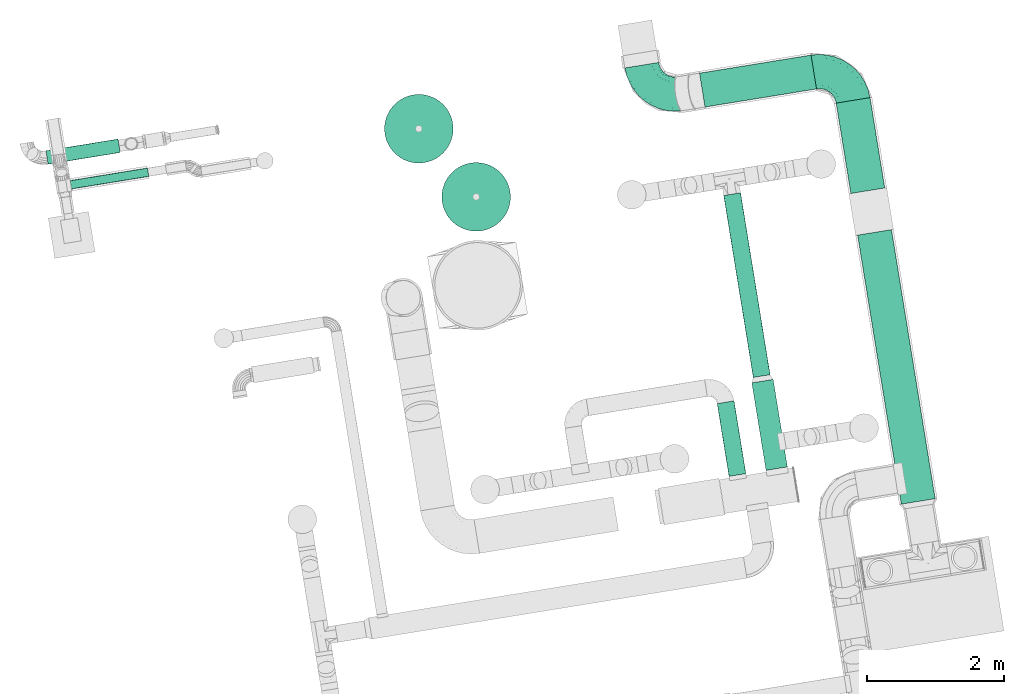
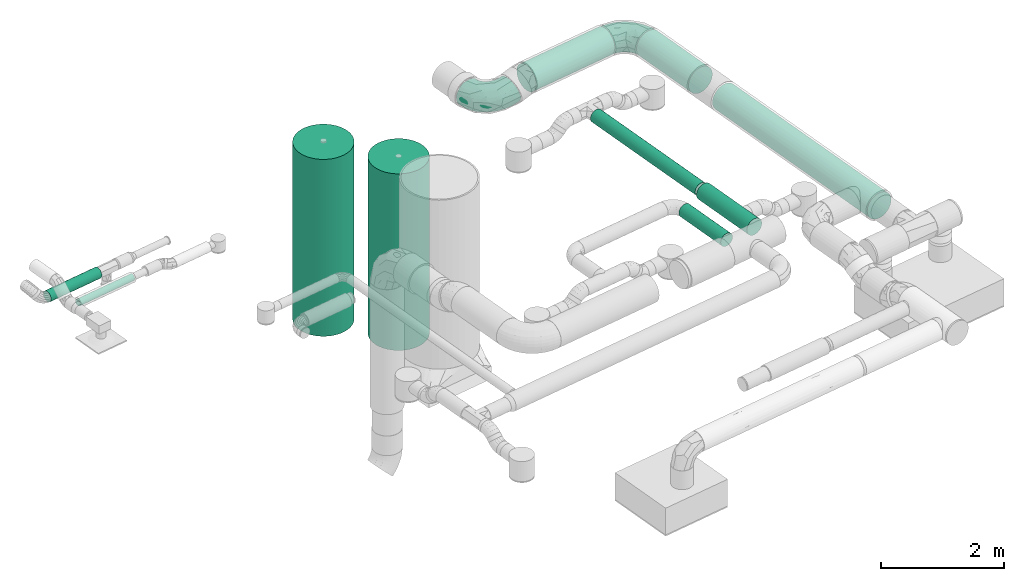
# One storey, part 13 of 39: 10 flow segments, 2 flow fittings.
"""IFC2X3 building model written with IfcOpenShell, lengths in millimetres."""

import ifcopenshell
import ifcopenshell.guid

model = None  # the IFC model being written
_history = None  # IfcOwnerHistory: only IFC2X3 demands one
_inside = {}  # id of a spatial element -> (the spatial element, [elements in it])
_under = {}  # id of a project, library or spatial element -> (it, [spatial elements below it])
_declared = {}  # id of a project -> (the project, [libraries it declares])
_typed = {}  # id of a type object -> (the type object, [elements of that type])
_made_of = {}  # id of a material, layer set ... -> (it, [elements and type objects made of it])


def new_model(schema):
    """Start an empty IFC model of exactly this schema.

    Asked for "IFC4X3", IfcOpenShell would pick the latest addendum, in which some entities
    have other attributes; the version numbers below select the first issue.
    IFC2X3 requires an IfcOwnerHistory on every rooted entity: one is made here for all.
    """
    global model, _history
    if schema == "IFC4X3":
        model = ifcopenshell.file(schema_version=(4, 3, 0, 0))
    else:
        model = ifcopenshell.file(schema=schema)
    _inside.clear()
    _under.clear()
    _declared.clear()
    _typed.clear()
    _made_of.clear()
    _history = None
    if model.schema == "IFC2X3":
        org = make("IfcOrganization", Name="unknown")
        user = make(
            "IfcPersonAndOrganization",
            ThePerson=make("IfcPerson", FamilyName="unknown"),
            TheOrganization=org,
        )
        app = make(
            "IfcApplication",
            ApplicationDeveloper=org,
            Version="unknown",
            ApplicationFullName="unknown",
            ApplicationIdentifier="unknown",
        )
        _history = make(
            "IfcOwnerHistory",
            OwningUser=user,
            OwningApplication=app,
            ChangeAction="ADDED",
            CreationDate=0,
        )
    return model


def make(cls, **values):
    """One entity of the class cls with the attributes given. An attribute that is None is left unset."""
    return model.create_entity(
        cls, **{name: value for name, value in values.items() if value is not None}
    )


def entity(cls, *values):
    """Any entity or typed value of the class cls, its attributes in the order of the schema. None: left unset."""
    e = model.create_entity(cls)
    for i, value in enumerate(values):
        if value is not None:
            e[i] = value
    return e


def rooted(cls, **values):
    """An entity with a GlobalId (a new one), such as an element, a storey or a relation."""
    return make(cls, GlobalId=ifcopenshell.guid.new(), OwnerHistory=_history, **values)


def si_unit(unit_type, name, prefix=None):
    """IfcSIUnit, for example si_unit("LENGTHUNIT", "METRE", prefix="MILLI")."""
    return make("IfcSIUnit", UnitType=unit_type, Prefix=prefix, Name=name)


def converted_unit(unit_type, name, factor, base, dimensions=None, offset=None):
    """IfcConversionBasedUnit, such as the inch: factor (a typed value) times the base unit."""
    return make(
        "IfcConversionBasedUnit"
        if offset is None
        else "IfcConversionBasedUnitWithOffset",
        ConversionOffset=offset,
        Dimensions=None
        if dimensions is None
        else entity("IfcDimensionalExponents", *dimensions),
        UnitType=unit_type,
        Name=name,
        ConversionFactor=make(
            "IfcMeasureWithUnit", ValueComponent=factor, UnitComponent=base
        ),
    )


def derived_unit(unit_type, elements):
    """IfcDerivedUnit: a product of units, each with its exponent."""
    return make(
        "IfcDerivedUnit",
        Elements=[
            make("IfcDerivedUnitElement", Unit=unit, Exponent=power)
            for unit, power in elements
        ],
        UnitType=unit_type,
    )


def assignment(units):
    """IfcUnitAssignment: the units of a project."""
    return None if units is None else make("IfcUnitAssignment", Units=units)


def point(xyz):
    """IfcCartesianPoint."""
    return None if xyz is None else make("IfcCartesianPoint", Coordinates=xyz)


def direction(xyz):
    """IfcDirection."""
    return None if xyz is None else make("IfcDirection", DirectionRatios=xyz)


def frame(location, z_axis=None, x_axis=None):
    """IfcAxis2Placement3D, a coordinate frame: its origin and axes. An axis left out is left unset."""
    return make(
        "IfcAxis2Placement3D",
        Location=point(location),
        Axis=direction(z_axis),
        RefDirection=direction(x_axis),
    )


def frame_2d(location, x_axis=None):
    """IfcAxis2Placement2D, a coordinate frame in the plane: its origin and x axis."""
    return make(
        "IfcAxis2Placement2D", Location=point(location), RefDirection=direction(x_axis)
    )


def origin():
    """The frame at (0, 0, 0) with its axes left unset."""
    return frame((0.0, 0.0, 0.0))


def origin_with_axes():
    """The frame at (0, 0, 0) with the z axis (0, 0, 1) and the x axis (1, 0, 0) written out."""
    return frame((0.0, 0.0, 0.0), z_axis=(0.0, 0.0, 1.0), x_axis=(1.0, 0.0, 0.0))


def origin_2d_with_axis():
    """The frame at (0, 0) in the plane with the x axis (1, 0) written out."""
    return frame_2d((0.0, 0.0), x_axis=(1.0, 0.0))


def place(relative_to, where):
    """IfcLocalPlacement: puts the frame where relative to a parent placement (None: the world)."""
    return make(
        "IfcLocalPlacement", PlacementRelTo=relative_to, RelativePlacement=where
    )


def context(
    kind, dimensions, precision=None, world=None, true_north=None, identifier=None
):
    """IfcGeometricRepresentationContext, for example the 3D "Model" context."""
    return make(
        "IfcGeometricRepresentationContext",
        ContextIdentifier=identifier,
        ContextType=kind,
        CoordinateSpaceDimension=dimensions,
        Precision=precision,
        WorldCoordinateSystem=world,
        TrueNorth=true_north,
    )


def subcontext(parent, identifier, kind, view, scale=None):
    """IfcGeometricRepresentationSubContext, for example "Body" below "Model"."""
    return make(
        "IfcGeometricRepresentationSubContext",
        ContextIdentifier=identifier,
        ContextType=kind,
        ParentContext=parent,
        TargetScale=scale,
        TargetView=view,
    )


def project(units=None, contexts=None):
    """IfcProject with its units and contexts."""
    return rooted(
        "IfcProject",
        Name="project",
        RepresentationContexts=contexts,
        UnitsInContext=assignment(units),
    )


def spatial(cls, under=None, at=None, **own):
    """A site, building, storey or space (cls), placed at a placement, below another one or the project."""
    s = rooted(cls, ObjectPlacement=at, **own)
    if under is not None:
        _under.setdefault(under.id(), (under, []))[1].append(s)
    return s


def profile(cls, at=None, kind="AREA", **sizes):
    """A parametric profile (cls). Its sizes go by their IFC names, for example OverallWidth=200.0."""
    return make(cls, ProfileType=kind, Position=at, **sizes)


def circle(**sizes):
    """IfcCircleProfileDef."""
    return profile("IfcCircleProfileDef", **sizes)


def extrude(swept, where, along, depth):
    """IfcExtrudedAreaSolid: the profile swept, set in the frame where, extruded along a direction by depth."""
    return make(
        "IfcExtrudedAreaSolid",
        SweptArea=swept,
        Position=where,
        ExtrudedDirection=direction(along),
        Depth=depth,
    )


def faces_of(points, faces, orient=None, outer=None):
    """IfcFace entities. A face is a list of loops; a loop is a list of indices into points, from 0.

    orient and outer hold one flag for each loop. By default every Orientation is true, the
    first loop of a face is its IfcFaceOuterBound and the others are IfcFaceBound.
    """
    made = []
    for i, loops in enumerate(faces):
        bounds = []
        for j, loop in enumerate(loops):
            is_outer = j == 0 if outer is None else outer[i][j]
            bounds.append(
                make(
                    "IfcFaceOuterBound" if is_outer else "IfcFaceBound",
                    Bound=make("IfcPolyLoop", Polygon=[points[k] for k in loop]),
                    Orientation=True if orient is None else orient[i][j],
                )
            )
        made.append(make("IfcFace", Bounds=bounds))
    return made


def faceted_brep(points, faces, orient=None, outer=None, voids=None):
    """IfcFacetedBrep: a solid bounded by flat faces; with voids (closed shells), ...WithVoids."""
    shared = [point(p) for p in points]
    hull = make("IfcClosedShell", CfsFaces=faces_of(shared, faces, orient, outer))
    if voids is None:
        return make("IfcFacetedBrep", Outer=hull)
    return make(
        "IfcFacetedBrepWithVoids",
        Outer=hull,
        Voids=[
            make(cls, CfsFaces=faces_of(shared, fs, o, b)) for cls, fs, o, b in voids
        ],
    )


def shape(context_of_items, identifier, shape_type, items):
    """IfcShapeRepresentation: the items that make up one representation, for example the "Body"."""
    return make(
        "IfcShapeRepresentation",
        ContextOfItems=context_of_items,
        RepresentationIdentifier=identifier,
        RepresentationType=shape_type,
        Items=items,
    )


def source(mapping_origin, context_of_items, identifier, shape_type, items):
    """IfcRepresentationMap: a shape defined once, which mapped items show again and again."""
    return make(
        "IfcRepresentationMap",
        MappingOrigin=mapping_origin,
        MappedRepresentation=shape(context_of_items, identifier, shape_type, items),
    )


def transform(
    local_origin,
    x_axis=None,
    y_axis=None,
    z_axis=None,
    scale=None,
    scale2=None,
    scale3=None,
    uniform=True,
):
    """IfcCartesianTransformationOperator3D, or its non-uniform kind. x_axis, y_axis, z_axis: its Axis1, 2, 3."""
    if uniform:
        return make(
            "IfcCartesianTransformationOperator3D",
            Axis1=direction(x_axis),
            Axis2=direction(y_axis),
            LocalOrigin=point(local_origin),
            Scale=scale,
            Axis3=direction(z_axis),
        )
    return make(
        "IfcCartesianTransformationOperator3DnonUniform",
        Axis1=direction(x_axis),
        Axis2=direction(y_axis),
        LocalOrigin=point(local_origin),
        Scale=scale,
        Axis3=direction(z_axis),
        Scale2=scale2,
        Scale3=scale3,
    )


def mapped(mapping_source, mapping_target):
    """IfcMappedItem: shows the shape of a source again, moved by a transform."""
    return make(
        "IfcMappedItem", MappingSource=mapping_source, MappingTarget=mapping_target
    )


def material(Name=None, Category=None):
    """IfcMaterial."""
    return make("IfcMaterial", Name=Name, Category=Category)


def made_of(thing, what):
    """Note that an element or type object is made of a material, layer set ...; save() writes the relation."""
    if what is not None:
        _made_of.setdefault(what.id(), (what, []))[1].append(thing)
    return thing


def type_object(cls, material=None, **own):
    """A type object (cls), such as IfcWallType, which elements share."""
    return made_of(rooted(cls, **own), material)


def element(
    cls,
    number,
    at=None,
    inside=None,
    cuts=None,
    type_object=None,
    material=None,
    context=None,
    identifier="Body",
    shape_type=None,
    held_by="IfcProductDefinitionShape",
    body=None,
    shapes=None,
    **own,
):
    """One element of the class cls, such as IfcWall. Its Tag is "e" and its number.

    at: its placement. inside: the storey or other place that contains it. cuts: it is an
    opening in that element (IfcRelVoidsElement). A single representation is given by context,
    identifier, shape_type and body (its items); several are given by shapes. held_by: the class
    of the entity that holds the representations. save() writes the other relations.
    """
    e = rooted(cls, Tag="e%d" % number, ObjectPlacement=at, **own)
    if body is not None:
        shapes = [shape(context, identifier, shape_type, body)]
    if shapes is not None:
        e.Representation = make(held_by, Representations=shapes)
    if inside is not None:
        _inside.setdefault(inside.id(), (inside, []))[1].append(e)
    if cuts is not None:
        rooted(
            "IfcRelVoidsElement", RelatingBuildingElement=cuts, RelatedOpeningElement=e
        )
    if type_object is not None:
        _typed.setdefault(type_object.id(), (type_object, []))[1].append(e)
    return made_of(e, material)


def aggregate(whole, parts):
    """IfcRelAggregates: a whole, such as a stair, and the parts it consists of."""
    return rooted("IfcRelAggregates", RelatingObject=whole, RelatedObjects=parts)


def save(model, path):
    """Write the relations noted so far, then the file.

    IfcRelAggregates (storeys below a building ...), IfcRelContainedInSpatialStructure (elements
    in a storey), IfcRelDefinesByType, IfcRelAssociatesMaterial and IfcRelDeclares: one each for
    every whole, place, type object, material and project.
    """
    for whole, parts in _under.values():
        aggregate(whole, parts)
    for where, things in _inside.values():
        rooted(
            "IfcRelContainedInSpatialStructure",
            RelatedElements=things,
            RelatingStructure=where,
        )
    for kind, things in _typed.values():
        rooted("IfcRelDefinesByType", RelatedObjects=things, RelatingType=kind)
    for what, things in _made_of.values():
        rooted("IfcRelAssociatesMaterial", RelatedObjects=things, RelatingMaterial=what)
    for by, libraries in _declared.values():
        rooted("IfcRelDeclares", RelatingContext=by, RelatedDefinitions=libraries)
    model.write(path)


model = new_model("IFC2X3")

# Units and contexts
model_context = context("Model", 3, precision=0.01, world=origin(), true_north=direction((6.12323399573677e-17, 1.0)))
plan_context = context("Plan", 3, precision=1e-05, world=origin_with_axes())
body_context = subcontext(model_context, "Body", "Model", "MODEL_VIEW")
ifc_project = project(units=[converted_unit("PLANEANGLEUNIT", "DEGREE", entity("IfcPositiveLengthMeasure", 0.0174532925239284), si_unit("PLANEANGLEUNIT", "RADIAN"), dimensions=[0, 0, 0, 0, 0, 0, 0]), si_unit("AREAUNIT", "SQUARE_METRE"), si_unit("LENGTHUNIT", "METRE", prefix="MILLI"), si_unit("MASSUNIT", "GRAM", prefix="KILO"), si_unit("POWERUNIT", "WATT"), si_unit("PRESSUREUNIT", "PASCAL", prefix="KILO"), si_unit("FORCEUNIT", "NEWTON", prefix="KILO"), si_unit("ELECTRICVOLTAGEUNIT", "VOLT"), si_unit("ELECTRICCURRENTUNIT", "AMPERE"), si_unit("THERMODYNAMICTEMPERATUREUNIT", "DEGREE_CELSIUS"), si_unit("TIMEUNIT", "SECOND"), si_unit("VOLUMEUNIT", "CUBIC_METRE"), derived_unit("LINEARVELOCITYUNIT", [(si_unit("LENGTHUNIT", "METRE"), 1), (si_unit("TIMEUNIT", "SECOND"), -1)]), derived_unit("VOLUMETRICFLOWRATEUNIT", [(si_unit("VOLUMEUNIT", "CUBIC_METRE"), 1), (si_unit("TIMEUNIT", "SECOND"), -1)]), derived_unit("THERMALTRANSMITTANCEUNIT", [(si_unit("POWERUNIT", "WATT"), 1), (si_unit("THERMODYNAMICTEMPERATUREUNIT", "KELVIN"), -1), (si_unit("AREAUNIT", "SQUARE_METRE"), -1)]), derived_unit("SOUNDPRESSUREUNIT", [(si_unit("PRESSUREUNIT", "PASCAL"), 1)])], contexts=[model_context, plan_context])

# Site, building, storey
site_placement = place(None, frame((-0.00071070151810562, 0.00438415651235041, 0.0), z_axis=(0.0, 0.0, 1.0), x_axis=(-0.160236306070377, 0.987078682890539, 0.0)))
site = spatial("IfcSite", under=ifc_project, at=site_placement, Name="Default", CompositionType="ELEMENT")
building_placement = place(site_placement, origin_with_axes())
building = spatial("IfcBuilding", under=site, at=building_placement, CompositionType="ELEMENT")
storey_placement = place(building_placement, frame((0.0, 0.0, 50999.9999999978), z_axis=(0.0, 0.0, 1.0), x_axis=(1.0, 0.0, 0.0)))
storey = spatial("IfcBuildingStorey", under=building, at=storey_placement, Name="Nivå D", CompositionType="ELEMENT", Elevation=50999.9999999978)

# Flow fittings
ifc_material = material(Name="<Unnamed>")
duct_fitting_type = type_object("IfcDuctFittingType", Name="magicirc_elbow_full_radius_1:magicirc_elbow_full_radius_001", PredefinedType="NOTDEFINED", material=ifc_material)
shared_shape = source(origin(), body_context, "Body", "Brep", [
    faceted_brep([(-382.674151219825, -240.766255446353, 0.0), (-383.654685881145, -234.575403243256, 55.6302334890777), (-500.0, -243.731978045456, 55.6302334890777), (-500.0, -250.0, 0.0), (-386.547121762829, -216.313281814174, 108.470934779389), (-500.0, -225.242216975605, 108.470934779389), (-391.206420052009, -186.89563018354, 155.872450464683), (-500.0, -195.457870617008, 155.872450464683), (-404.814174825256, -100.979647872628, 225.242216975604), (-500.0, -108.470934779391, 225.242216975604), (-413.080281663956, -48.7895032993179, 243.731978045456), (-500.0, -55.6302334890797, 243.731978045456), (-421.782767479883, 6.15582970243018, 250.0), (-500.0, 0.0, 250.0), (-438.751360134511, 113.291307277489, 225.242216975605), (-500.0, 108.470934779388, 225.242216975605), (-446.166590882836, 160.109231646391, 195.457870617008), (-500.0, 155.872450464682, 195.457870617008), (-452.359114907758, 199.207289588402, 155.872450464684), (-500.0, 195.457870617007, 155.872450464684), (-459.910849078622, 246.887062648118, 55.6302334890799), (-500.0, 243.731978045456, 55.6302334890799), (-460.891383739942, 253.077914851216, 0.0), (-500.0, 250.0, 0.0), (-459.910849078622, 246.887062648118, -55.6302334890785), (-500.0, 243.731978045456, -55.6302334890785), (-457.018413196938, 228.624941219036, -108.470934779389), (-500.0, 225.242216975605, -108.470934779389), (-452.359114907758, 199.207289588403, -155.872450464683), (-500.0, 195.457870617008, -155.872450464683), (-438.751360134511, 113.29130727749, -225.242216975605), (-500.0, 108.47093477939, -225.242216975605), (-430.485253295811, 61.1011627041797, -243.731978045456), (-500.0, 55.6302334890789, -243.731978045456), (-421.782767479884, 6.15582970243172, -250.0), (-500.0, 0.0, -250.0), (-404.814174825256, -100.979647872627, -225.242216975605), (-500.0, -108.470934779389, -225.242216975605), (-397.398944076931, -147.797572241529, -195.457870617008), (-500.0, -155.872450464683, -195.457870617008), (-391.206420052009, -186.895630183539, -155.872450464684), (-500.0, -195.457870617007, -155.872450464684), (-383.654685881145, -234.575403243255, -55.6302334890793), (-500.0, -243.731978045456, -55.6302334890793), (-268.237254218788, -213.292387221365, 0.0), (-270.174179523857, -207.331144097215, 55.6302334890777), (-275.887829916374, -189.746336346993, 108.470934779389), (-285.09169910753, -161.419739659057, 155.872450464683), (-311.972140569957, -78.6902474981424, 225.242216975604), (-328.300815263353, -28.4357542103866, 243.731978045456), (-345.491502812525, 24.4717418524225, 250.0), (-379.010865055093, 127.633731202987, 225.242216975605), (-393.658738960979, 172.715251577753, 195.457870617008), (-405.89130651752, 210.363223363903, 155.872450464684), (-420.808826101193, 256.274627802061, 55.6302334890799), (-422.745751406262, 262.235870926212, 0.0), (-420.808826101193, 256.274627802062, -55.6302334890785), (-415.095175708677, 238.689820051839, -108.470934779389), (-405.89130651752, 210.363223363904, -155.872450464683), (-379.010865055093, 127.633731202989, -225.242216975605), (-362.682190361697, 77.3792379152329, -243.731978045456), (-345.491502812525, 24.4717418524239, -250.0), (-311.972140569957, -78.690247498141, -225.242216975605), (-297.324266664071, -123.771767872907, -195.457870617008), (-285.09169910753, -161.419739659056, -155.872450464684), (-270.174179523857, -207.331144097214, -55.6302334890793), (-159.507125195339, -168.254893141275, 0.0), (-162.35274761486, -162.670044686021, 55.6302334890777), (-170.746923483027, -146.195546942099, 108.470934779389), (-184.268733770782, -119.657500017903, 155.872450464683), (-223.759976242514, -42.1515726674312, 225.242216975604), (-247.749152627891, 4.92983692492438, 243.731978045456), (-273.004750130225, 54.4967379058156, 250.0), (-322.249524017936, 151.145048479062, 225.242216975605), (-343.769361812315, 193.380108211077, 195.457870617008), (-361.740766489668, 228.650975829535, 155.872450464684), (-383.656752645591, 271.663520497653, 55.6302334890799), (-386.502375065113, 277.248368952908, 0.0), (-383.656752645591, 271.663520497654, -55.6302334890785), (-375.262576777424, 255.189022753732, -108.470934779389), (-361.740766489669, 228.650975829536, -155.872450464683), (-322.249524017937, 151.145048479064, -225.242216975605), (-298.26034763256, 104.063638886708, -243.731978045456), (-273.004750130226, 54.496737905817, -250.0), (-223.759976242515, -42.1515726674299, -225.242216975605), (-202.240138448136, -84.386632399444, -195.457870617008), (-184.268733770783, -119.657500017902, -155.872450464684), (-162.352747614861, -162.67004468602, -55.6302334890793), (-59.1610607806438, -106.76274578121, 0.0), (-62.8453116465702, -101.691809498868, 55.6302334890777), (-73.7133205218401, -86.7332785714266, 108.470934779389), (-91.2201200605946, -62.637236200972, 155.872450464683), (-142.349758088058, 7.73667318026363, 225.242216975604), (-173.408743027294, 50.4856985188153, 243.731978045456), (-206.107373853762, 95.4915028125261, 250.0), (-269.864989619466, 183.246332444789, 225.242216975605), (-297.726901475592, 221.594964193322, 195.457870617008), (-320.994627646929, 253.620241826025, 155.872450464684), (-349.369436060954, 292.674815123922, 55.6302334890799), (-353.053686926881, 297.745751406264, 0.0), (-349.369436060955, 292.674815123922, -55.6302334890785), (-338.501427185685, 277.71628419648, -108.470934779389), (-320.99462764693, 253.620241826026, -155.872450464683), (-269.864989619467, 183.24633244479, -225.242216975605), (-238.80600468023, 140.497307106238, -243.731978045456), (-206.107373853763, 95.4915028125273, -250.0), (-142.349758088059, 7.73667318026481, -225.242216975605), (-114.487846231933, -30.6119585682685, -195.457870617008), (-91.2201200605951, -62.6372362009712, -155.872450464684), (-62.8453116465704, -101.691809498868, -55.6302334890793), (30.3300858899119, -30.3300858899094, 0.0), (25.8979250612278, -25.8979250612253, 55.6302334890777), (12.8236896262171, -12.8236896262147, 108.470934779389), (-8.23702365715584, 8.23702365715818, 155.872450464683), (-69.7460758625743, 69.7460758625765, 225.242216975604), (-107.110094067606, 107.110094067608, 243.731978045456), (-146.446609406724, 146.446609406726, 250.0), (-223.147142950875, 223.147142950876, 225.242216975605), (-256.665076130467, 256.665076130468, 195.457870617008), (-284.656195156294, 284.656195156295, 155.872450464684), (-318.791143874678, 318.791143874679, 55.6302334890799), (-323.223304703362, 323.223304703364, 0.0), (-318.791143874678, 318.79114387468, -55.6302334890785), (-305.716908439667, 305.716908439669, -108.470934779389), (-284.656195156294, 284.656195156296, -155.872450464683), (-223.147142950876, 223.147142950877, -225.242216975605), (-185.783124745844, 185.783124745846, -243.731978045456), (-146.446609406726, 146.446609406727, -250.0), (-69.7460758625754, 69.7460758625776, -225.242216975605), (-36.2281426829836, 36.2281426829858, -195.457870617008), (-8.23702365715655, 8.23702365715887, -155.872450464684), (25.8979250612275, -25.897925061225, -55.6302334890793), (106.762745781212, 59.1610607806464, 0.0), (101.69180949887, 62.8453116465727, 55.6302334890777), (86.7332785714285, 73.7133205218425, 108.470934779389), (62.6372362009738, 91.2201200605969, 155.872450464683), (-7.7366731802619, 142.34975808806, 225.242216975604), (-50.4856985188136, 173.408743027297, 243.731978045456), (-95.4915028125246, 206.107373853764, 250.0), (-183.246332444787, 269.864989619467, 225.242216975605), (-221.594964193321, 297.726901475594, 195.457870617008), (-253.620241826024, 320.994627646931, 155.872450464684), (-292.674815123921, 349.369436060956, 55.6302334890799), (-297.745751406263, 353.053686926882, 0.0), (-292.674815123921, 349.369436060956, -55.6302334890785), (-277.716284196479, 338.501427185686, -108.470934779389), (-253.620241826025, 320.994627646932, -155.872450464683), (-183.246332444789, 269.864989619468, -225.242216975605), (-140.497307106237, 238.806004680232, -243.731978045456), (-95.4915028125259, 206.107373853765, -250.0), (-7.73667318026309, 142.349758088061, -225.242216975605), (30.6119585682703, 114.487846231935, -195.457870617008), (62.637236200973, 91.2201200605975, -155.872450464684), (101.69180949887, 62.8453116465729, -55.6302334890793), (168.254893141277, 159.507125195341, 0.0), (162.670044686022, 162.352747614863, 55.6302334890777), (146.195546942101, 170.74692348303, 108.470934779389), (119.657500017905, 184.268733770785, 155.872450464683), (42.1515726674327, 223.759976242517, 225.242216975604), (-4.92983692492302, 247.749152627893, 243.731978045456), (-54.4967379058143, 273.004750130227, 250.0), (-151.145048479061, 322.249524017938, 225.242216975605), (-193.380108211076, 343.769361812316, 195.457870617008), (-228.650975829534, 361.74076648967, 155.872450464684), (-271.663520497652, 383.656752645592, 55.6302334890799), (-277.248368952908, 386.502375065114, 0.0), (-271.663520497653, 383.656752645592, -55.6302334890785), (-255.189022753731, 375.262576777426, -108.470934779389), (-228.650975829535, 361.74076648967, -155.872450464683), (-151.145048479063, 322.249524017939, -225.242216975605), (-104.063638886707, 298.260347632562, -243.731978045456), (-54.4967379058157, 273.004750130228, -250.0), (42.1515726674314, 223.759976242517, -225.242216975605), (84.3866323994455, 202.240138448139, -195.457870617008), (119.657500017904, 184.268733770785, -155.872450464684), (162.670044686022, 162.352747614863, -55.6302334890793), (213.292387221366, 268.237254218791, 0.0), (207.331144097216, 270.17417952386, 55.6302334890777), (189.746336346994, 275.887829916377, 108.470934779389), (161.419739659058, 285.091699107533, 155.872450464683), (78.6902474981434, 311.972140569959, 225.242216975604), (28.4357542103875, 328.300815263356, 243.731978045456), (-24.4717418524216, 345.491502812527, 250.0), (-127.633731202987, 379.010865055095, 225.242216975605), (-172.715251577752, 393.658738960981, 195.457870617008), (-210.363223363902, 405.891306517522, 155.872450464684), (-256.274627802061, 420.808826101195, 55.6302334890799), (-262.235870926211, 422.745751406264, 0.0), (-256.274627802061, 420.808826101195, -55.6302334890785), (-238.689820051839, 415.095175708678, -108.470934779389), (-210.363223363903, 405.891306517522, -155.872450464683), (-127.633731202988, 379.010865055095, -225.242216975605), (-77.3792379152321, 362.682190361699, -243.731978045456), (-24.4717418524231, 345.491502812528, -250.0), (78.690247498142, 311.97214056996, -225.242216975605), (123.771767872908, 297.324266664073, -195.457870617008), (161.419739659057, 285.091699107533, -155.872450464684), (207.331144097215, 270.17417952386, -55.6302334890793), (240.766255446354, 382.674151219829, 0.0), (234.575403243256, 383.654685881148, 55.6302334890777), (216.313281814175, 386.547121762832, 108.470934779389), (186.895630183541, 391.206420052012, 155.872450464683), (100.979647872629, 404.814174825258, 225.242216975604), (48.7895032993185, 413.080281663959, 243.731978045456), (-6.1558297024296, 421.782767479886, 250.0), (-113.291307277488, 438.751360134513, 225.242216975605), (-160.109231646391, 446.166590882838, 195.457870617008), (-199.207289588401, 452.35911490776, 155.872450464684), (-246.887062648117, 459.910849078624, 55.6302334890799), (-253.077914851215, 460.891383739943, 0.0), (-246.887062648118, 459.910849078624, -55.6302334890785), (-228.624941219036, 457.01841319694, -108.470934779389), (-199.207289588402, 452.35911490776, -155.872450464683), (-113.29130727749, 438.751360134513, -225.242216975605), (-61.1011627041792, 430.485253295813, -243.731978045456), (-6.15582970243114, 421.782767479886, -250.0), (100.979647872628, 404.814174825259, -225.242216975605), (147.79757224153, 397.398944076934, -195.457870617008), (186.89563018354, 391.206420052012, -155.872450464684), (234.575403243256, 383.654685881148, -55.6302334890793), (250.0, 500.0, 0.0), (243.731978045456, 500.0, 55.6302334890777), (225.242216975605, 500.0, 108.470934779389), (195.457870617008, 500.0, 155.872450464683), (108.470934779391, 500.0, 225.242216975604), (55.63023348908, 500.0, 243.731978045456), (0.0, 500.0, 250.0), (-108.470934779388, 500.0, 225.242216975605), (-155.872450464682, 500.0, 195.457870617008), (-195.457870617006, 500.0, 155.872450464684), (-243.731978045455, 500.0, 55.6302334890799), (-250.0, 500.0, 0.0), (-243.731978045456, 500.0, -55.6302334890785), (-225.242216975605, 500.0, -108.470934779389), (-195.457870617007, 500.0, -155.872450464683), (-108.47093477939, 500.0, -225.242216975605), (-55.6302334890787, 500.0, -243.731978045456), (0.0, 500.0, -250.0), (108.470934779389, 500.0, -225.242216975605), (155.872450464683, 500.0, -195.457870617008), (195.457870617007, 500.0, -155.872450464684), (243.731978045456, 500.0, -55.6302334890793)], [[[0, 1, 2, 3]], [[1, 4, 5, 2]], [[4, 6, 7, 5]], [[6, 8, 9, 7]], [[8, 10, 11, 9]], [[10, 12, 13, 11]], [[12, 14, 15, 13]], [[14, 16, 17, 15]], [[16, 18, 19, 17]], [[18, 20, 21, 19]], [[20, 22, 23, 21]], [[22, 24, 25, 23]], [[24, 26, 27, 25]], [[26, 28, 29, 27]], [[28, 30, 31, 29]], [[30, 32, 33, 31]], [[32, 34, 35, 33]], [[34, 36, 37, 35]], [[36, 38, 39, 37]], [[38, 40, 41, 39]], [[40, 42, 43, 41]], [[42, 0, 3, 43]], [[44, 45, 1, 0]], [[45, 46, 4, 1]], [[46, 47, 6, 4]], [[47, 48, 8, 6]], [[48, 49, 10, 8]], [[49, 50, 12, 10]], [[50, 51, 14, 12]], [[51, 52, 16, 14]], [[52, 53, 18, 16]], [[53, 54, 20, 18]], [[54, 55, 22, 20]], [[55, 56, 24, 22]], [[56, 57, 26, 24]], [[57, 58, 28, 26]], [[58, 59, 30, 28]], [[59, 60, 32, 30]], [[60, 61, 34, 32]], [[61, 62, 36, 34]], [[62, 63, 38, 36]], [[63, 64, 40, 38]], [[64, 65, 42, 40]], [[65, 44, 0, 42]], [[66, 67, 45, 44]], [[67, 68, 46, 45]], [[68, 69, 47, 46]], [[69, 70, 48, 47]], [[70, 71, 49, 48]], [[71, 72, 50, 49]], [[72, 73, 51, 50]], [[73, 74, 52, 51]], [[74, 75, 53, 52]], [[75, 76, 54, 53]], [[76, 77, 55, 54]], [[77, 78, 56, 55]], [[78, 79, 57, 56]], [[79, 80, 58, 57]], [[80, 81, 59, 58]], [[81, 82, 60, 59]], [[82, 83, 61, 60]], [[83, 84, 62, 61]], [[84, 85, 63, 62]], [[85, 86, 64, 63]], [[86, 87, 65, 64]], [[87, 66, 44, 65]], [[88, 89, 67, 66]], [[89, 90, 68, 67]], [[90, 91, 69, 68]], [[91, 92, 70, 69]], [[92, 93, 71, 70]], [[93, 94, 72, 71]], [[94, 95, 73, 72]], [[95, 96, 74, 73]], [[96, 97, 75, 74]], [[97, 98, 76, 75]], [[98, 99, 77, 76]], [[99, 100, 78, 77]], [[100, 101, 79, 78]], [[101, 102, 80, 79]], [[102, 103, 81, 80]], [[103, 104, 82, 81]], [[104, 105, 83, 82]], [[105, 106, 84, 83]], [[106, 107, 85, 84]], [[107, 108, 86, 85]], [[108, 109, 87, 86]], [[109, 88, 66, 87]], [[110, 111, 89, 88]], [[111, 112, 90, 89]], [[112, 113, 91, 90]], [[113, 114, 92, 91]], [[114, 115, 93, 92]], [[115, 116, 94, 93]], [[116, 117, 95, 94]], [[117, 118, 96, 95]], [[118, 119, 97, 96]], [[119, 120, 98, 97]], [[120, 121, 99, 98]], [[121, 122, 100, 99]], [[122, 123, 101, 100]], [[123, 124, 102, 101]], [[124, 125, 103, 102]], [[125, 126, 104, 103]], [[126, 127, 105, 104]], [[127, 128, 106, 105]], [[128, 129, 107, 106]], [[129, 130, 108, 107]], [[130, 131, 109, 108]], [[131, 110, 88, 109]], [[132, 133, 111, 110]], [[133, 134, 112, 111]], [[134, 135, 113, 112]], [[135, 136, 114, 113]], [[136, 137, 115, 114]], [[137, 138, 116, 115]], [[138, 139, 117, 116]], [[139, 140, 118, 117]], [[140, 141, 119, 118]], [[141, 142, 120, 119]], [[142, 143, 121, 120]], [[143, 144, 122, 121]], [[144, 145, 123, 122]], [[145, 146, 124, 123]], [[146, 147, 125, 124]], [[147, 148, 126, 125]], [[148, 149, 127, 126]], [[149, 150, 128, 127]], [[150, 151, 129, 128]], [[151, 152, 130, 129]], [[152, 153, 131, 130]], [[153, 132, 110, 131]], [[154, 155, 133, 132]], [[155, 156, 134, 133]], [[156, 157, 135, 134]], [[157, 158, 136, 135]], [[158, 159, 137, 136]], [[159, 160, 138, 137]], [[160, 161, 139, 138]], [[161, 162, 140, 139]], [[162, 163, 141, 140]], [[163, 164, 142, 141]], [[164, 165, 143, 142]], [[165, 166, 144, 143]], [[166, 167, 145, 144]], [[167, 168, 146, 145]], [[168, 169, 147, 146]], [[169, 170, 148, 147]], [[170, 171, 149, 148]], [[171, 172, 150, 149]], [[172, 173, 151, 150]], [[173, 174, 152, 151]], [[174, 175, 153, 152]], [[175, 154, 132, 153]], [[176, 177, 155, 154]], [[177, 178, 156, 155]], [[178, 179, 157, 156]], [[179, 180, 158, 157]], [[180, 181, 159, 158]], [[181, 182, 160, 159]], [[182, 183, 161, 160]], [[183, 184, 162, 161]], [[184, 185, 163, 162]], [[185, 186, 164, 163]], [[186, 187, 165, 164]], [[187, 188, 166, 165]], [[188, 189, 167, 166]], [[189, 190, 168, 167]], [[190, 191, 169, 168]], [[191, 192, 170, 169]], [[192, 193, 171, 170]], [[193, 194, 172, 171]], [[194, 195, 173, 172]], [[195, 196, 174, 173]], [[196, 197, 175, 174]], [[197, 176, 154, 175]], [[198, 199, 177, 176]], [[199, 200, 178, 177]], [[200, 201, 179, 178]], [[201, 202, 180, 179]], [[202, 203, 181, 180]], [[203, 204, 182, 181]], [[204, 205, 183, 182]], [[205, 206, 184, 183]], [[206, 207, 185, 184]], [[207, 208, 186, 185]], [[208, 209, 187, 186]], [[209, 210, 188, 187]], [[210, 211, 189, 188]], [[211, 212, 190, 189]], [[212, 213, 191, 190]], [[213, 214, 192, 191]], [[214, 215, 193, 192]], [[215, 216, 194, 193]], [[216, 217, 195, 194]], [[217, 218, 196, 195]], [[218, 219, 197, 196]], [[219, 198, 176, 197]], [[220, 221, 199, 198]], [[221, 222, 200, 199]], [[222, 223, 201, 200]], [[223, 224, 202, 201]], [[224, 225, 203, 202]], [[225, 226, 204, 203]], [[226, 227, 205, 204]], [[227, 228, 206, 205]], [[228, 229, 207, 206]], [[229, 230, 208, 207]], [[230, 231, 209, 208]], [[231, 232, 210, 209]], [[232, 233, 211, 210]], [[233, 234, 212, 211]], [[234, 235, 213, 212]], [[235, 236, 214, 213]], [[236, 237, 215, 214]], [[237, 238, 216, 215]], [[238, 239, 217, 216]], [[239, 240, 218, 217]], [[240, 241, 219, 218]], [[241, 220, 198, 219]], [[3, 2, 5, 7, 9, 11, 13, 15, 17, 19, 21, 23, 25, 27, 29, 31, 33, 35, 37, 39, 41, 43]], [[241, 240, 239, 238, 237, 236, 235, 234, 233, 232, 231, 230, 229, 228, 227, 226, 225, 224, 223, 222, 221, 220]]]),
])
for number, where, z_axis, x_axis, name in (
    (1, (778911.619644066, -599012.905078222, 3100.0), (0.0, 0.258819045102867, 0.965925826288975), (-1.0, 0.0, 0.0), "magicirc_elbow_full_radius_1:magicirc_elbow_full_radius_001"),
    (2, (778911.619644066, -601972.905078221, 3300.0), (0.0, 0.0, 1.0), (1.0, 0.0, 0.0), "magicirc_elbow_full_radius_1:magicirc_elbow_full_radius_001"),
):
    element("IfcFlowFitting", number, at=place(storey_placement, frame(where, z_axis=z_axis, x_axis=x_axis)), inside=storey, type_object=duct_fitting_type, material=ifc_material, Name=name, ObjectType="magicirc_elbow_full_radius_1:magicirc_elbow_full_radius_001", context=body_context, shape_type="MappedRepresentation", body=[
        mapped(shared_shape, transform((0.0, 0.0, 0.0), scale=1.0)),
    ])

# Flow segments
duct_segment_type = type_object("IfcDuctSegmentType", Name="Round Duct:KK001T - Spiro kanaler, Forsinket stål", PredefinedType="NOTDEFINED")
flow_segment_1_placement = place(storey_placement, origin_with_axes())
element("IfcFlowSegment", 3, at=flow_segment_1_placement, inside=storey, type_object=duct_segment_type, Name="Round Duct:KK001T - Spiro kanaler, Forsinket stål", ObjectType="Round Duct:KK001T - Spiro kanaler, Forsinket stål", context=body_context, shape_type="SweptSolid", body=[
    extrude(circle(Radius=100.0, at=origin_2d_with_axis()), frame((779472.619644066, -591301.98173883, 2903.07848), z_axis=(0.0, 1.0, 1.62612087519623e-05), x_axis=(1.0, 0.0, 0.0)), (0.0, 0.0, 1.0), 1065.02994633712),
])
flow_segment_2_placement = place(storey_placement, origin_with_axes())
element("IfcFlowSegment", 4, at=flow_segment_2_placement, inside=storey, type_object=duct_segment_type, Name="Round Duct:KK001T - Spiro kanaler, Forsinket stål", ObjectType="Round Duct:KK001T - Spiro kanaler, Forsinket stål", context=body_context, shape_type="SweptSolid", body=[
    extrude(circle(Radius=62.4999999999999, at=origin_2d_with_axis()), frame((779024.265974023, -591657.751649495, 2900.00951447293), z_axis=(0.0, 1.0, -7.62518220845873e-06), x_axis=(-1.0, 0.0, 0.0)), (0.0, 0.0, 1.0), 1142.76991078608),
])
flow_segment_3_placement = place(storey_placement, origin_with_axes())
element("IfcFlowSegment", 5, at=flow_segment_3_placement, inside=storey, type_object=duct_segment_type, Name="Round Duct:KK001T - Spiro kanaler, Forsinket stål", ObjectType="Round Duct:KK001T - Spiro kanaler, Forsinket stål", context=body_context, shape_type="SweptSolid", body=[
    extrude(circle(Radius=500.0, at=frame_2d((3.10101827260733e-24, -6.93034962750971e-11), x_axis=(1.0, 0.0))), frame((777903.00966992, -596321.533015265, 339.246306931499), z_axis=(0.0, 0.0, 1.0), x_axis=(-1.0, 0.0, 0.0)), (0.0, 0.0, 1.0), 3500.75369307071),
])
flow_segment_4_placement = place(storey_placement, origin_with_axes())
element("IfcFlowSegment", 6, at=flow_segment_4_placement, inside=storey, type_object=duct_segment_type, Name="Round Duct:KK001T - Spiro kanaler, Forsinket stål", ObjectType="Round Duct:KK001T - Spiro kanaler, Forsinket stål", context=body_context, shape_type="SweptSolid", body=[
    extrude(circle(Radius=500.0, at=frame_2d((0.0, 1.19615908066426e-18), x_axis=(1.0, 0.0))), frame((779017.739633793, -595655.667976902, 309.999703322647), z_axis=(-1.38077776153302e-07, 0.0, 1.0), x_axis=(0.0, 1.0, 0.0)), (0.0, 0.0, 1.0), 3506.4991908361),
])
flow_segment_5_placement = place(storey_placement, origin_with_axes())
element("IfcFlowSegment", 7, at=flow_segment_5_placement, inside=storey, type_object=duct_segment_type, Name="Round Duct:KK001T - Spiro kanaler, Forsinket stål", ObjectType="Round Duct:KK001T - Spiro kanaler, Forsinket stål", context=body_context, shape_type="SweptSolid", body=[
    extrude(circle(Radius=250.0, at=origin_2d_with_axis()), frame((778911.619644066, -601472.905078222, 3300.0), z_axis=(0.0, 1.0, 0.0), x_axis=(-1.0, 0.0, 0.0)), (0.0, 0.0, 1.0), 1647.7635896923),
])
flow_segment_6_placement = place(storey_placement, origin_with_axes())
element("IfcFlowSegment", 8, at=flow_segment_6_placement, inside=storey, type_object=duct_segment_type, Name="Round Duct:KK001T - Spiro kanaler, Forsinket stål", ObjectType="Round Duct:KK001T - Spiro kanaler, Forsinket stål", context=body_context, shape_type="SweptSolid", body=[
    extrude(circle(Radius=250.0, at=frame_2d((0.0, 8.66293703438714e-12), x_axis=(1.0, 0.0))), frame((777076.258803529, -601972.905078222, 3300.0), z_axis=(1.0, 0.0, 0.0), x_axis=(0.0, -1.0, 0.0)), (0.0, 0.0, 1.0), 1335.36084053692),
])
flow_segment_7_placement = place(storey_placement, origin_with_axes())
element("IfcFlowSegment", 9, at=flow_segment_7_placement, inside=storey, type_object=duct_segment_type, Name="Round Duct:KK001T - Spiro kanaler, Forsinket stål", ObjectType="Round Duct:KK001T - Spiro kanaler, Forsinket stål", context=body_context, shape_type="SweptSolid", body=[
    extrude(circle(Radius=157.5, at=frame_2d((0.0, -8.66293703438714e-12), x_axis=(1.0, 0.0))), frame((773289.47928963, -600012.580498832, 3310.0), z_axis=(1.0, 0.0, 0.0), x_axis=(0.0, 1.0, 0.0)), (0.0, 0.0, 1.0), 1292.41162883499),
])
flow_segment_8_placement = place(storey_placement, origin_with_axes())
element("IfcFlowSegment", 10, at=flow_segment_8_placement, inside=storey, type_object=duct_segment_type, Name="Round Duct:KK001T - Spiro kanaler, Forsinket stål", ObjectType="Round Duct:KK001T - Spiro kanaler, Forsinket stål", context=body_context, shape_type="SweptSolid", body=[
    extrude(circle(Radius=250.0, at=frame_2d((0.0, 8.66293703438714e-12), x_axis=(1.0, 0.0))), frame((772486.932124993, -601972.905078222, 3300.0), z_axis=(1.0, 0.0, 0.0), x_axis=(0.0, -1.0, 0.0)), (0.0, 0.0, 1.0), 3974.32667853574),
])
flow_segment_9_placement = place(storey_placement, origin_with_axes())
element("IfcFlowSegment", 11, at=flow_segment_9_placement, inside=storey, type_object=duct_segment_type, Name="Round Duct:KK001T - Spiro kanaler, Forsinket stål", ObjectType="Round Duct:KK001T - Spiro kanaler, Forsinket stål", context=body_context, shape_type="SweptSolid", body=[
    extrude(circle(Radius=125.0, at=frame_2d((0.0, -8.66293703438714e-12), x_axis=(1.0, 0.0))), frame((774656.890918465, -600012.580498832, 3310.0), z_axis=(1.0, 0.0, 0.0), x_axis=(0.0, 1.0, 0.0)), (0.0, 0.0, 1.0), 2687.55834184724),
])
flow_segment_10_placement = place(storey_placement, origin_with_axes())
element("IfcFlowSegment", 12, at=flow_segment_10_placement, inside=storey, type_object=duct_segment_type, Name="Round Duct:KK001T - Spiro kanaler, Forsinket stål", ObjectType="Round Duct:KK001T - Spiro kanaler, Forsinket stål", context=body_context, shape_type="SweptSolid", body=[
    extrude(circle(Radius=125.0, at=origin_2d_with_axis()), frame((773289.47928963, -599432.555921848, 3310.0), z_axis=(1.0, 0.0, 0.0), x_axis=(0.0, -1.0, 0.0)), (0.0, 0.0, 1.0), 1075.00000000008),
])

save(model, "model.ifc")
